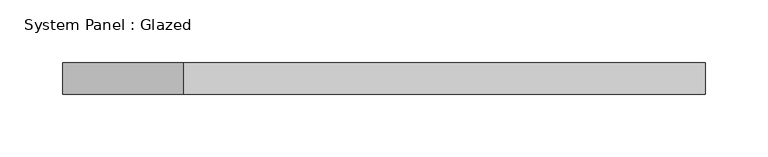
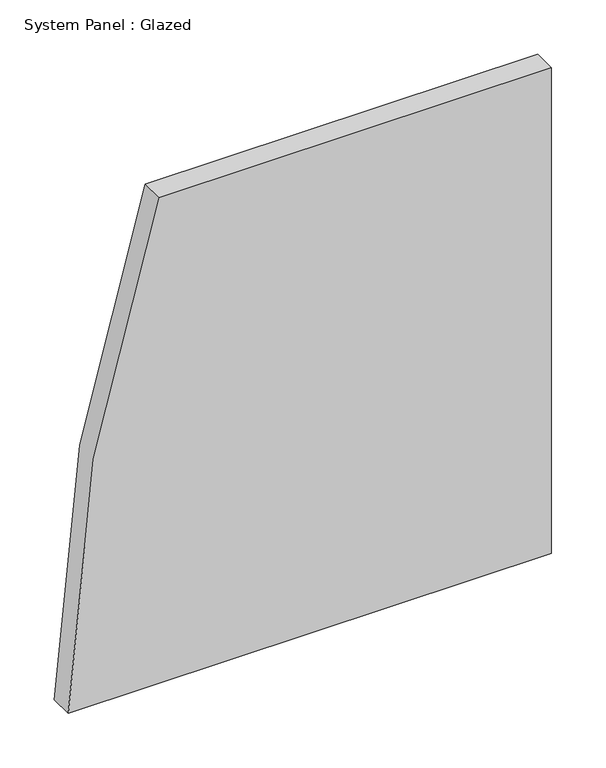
"""IFC4 building model written with IfcOpenShell, lengths in millimetres: plate geometry, System Panel : Glazed."""

from ifc_helpers import new_model, si_unit, point, frame, frame_2d, origin, place, context, project, spatial, polyline, circle_curve, trimmed, segment, composite_curve, outline, extrude, source, transform, mapped, element, save


def system_panel_glazed_db2ca77c(model_context):
    return source(origin(), model_context, "Body", "SweptSolid", [
        extrude(outline(composite_curve([segment(polyline([(0.0, -257.0322277), (0.0, 257.0322277), (546.1, 257.0322277), (546.1, -160.0625761)]), True, "CONTINUOUS"), segment(trimmed(circle_curve(frame_2d((-31.75, 1507.9822277)), 1765.3), [point((546.1, -160.0625761))], [point((0.0, -257.0322277))], False, "CARTESIAN"), True, "CONTINUOUS")], self_intersect=False)), frame((0.0, -44.45, 0.0), z_axis=(0.0, 1.0, 0.0), x_axis=(0.0, 0.0, 1.0)), (0.0, 0.0, 1.0), 25.4),
    ])


if __name__ == "__main__":
    model = new_model("IFC4")
    model_context = context("Model", 3, world=origin())
    ifc_project = project(units=[si_unit("LENGTHUNIT", "METRE", prefix="MILLI")], contexts=[model_context])
    site = spatial("IfcSite", under=ifc_project)
    building = spatial("IfcBuilding", under=site)
    placement = place(None, origin())
    system_panel_glazed_shape = system_panel_glazed_db2ca77c(model_context)
    element("IfcPlate", 1, ObjectType="System Panel : Glazed", at=placement, inside=building, context=model_context, shape_type="MappedRepresentation", body=[
        mapped(system_panel_glazed_shape, transform((0.0, 0.0, 0.0), x_axis=(1.0, 0.0, 0.0), y_axis=(0.0, 1.0, 0.0), z_axis=(0.0, 0.0, 1.0))),
    ])
    save(model, "model.ifc")
